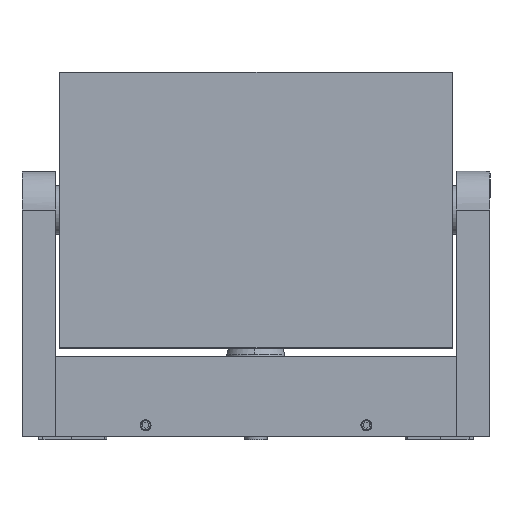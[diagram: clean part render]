
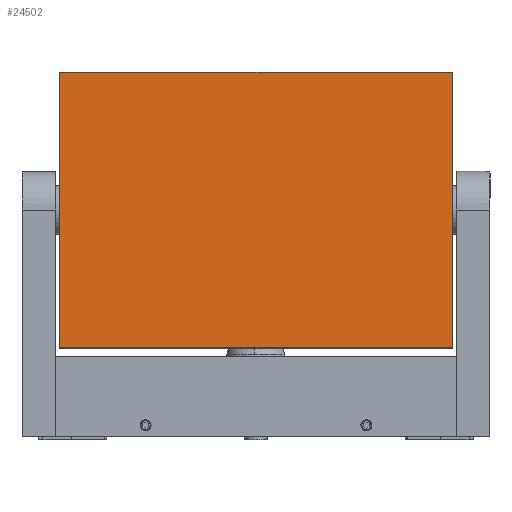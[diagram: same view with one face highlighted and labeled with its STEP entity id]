
A CAD part, top view. The second image highlights one B-rep face of the part: STEP entity #24502.
In plain terms, the highlighted planar face has unit normal (0, 0, 1) as drawn and (0, 0, -1) by its records, which use the part's own axes.
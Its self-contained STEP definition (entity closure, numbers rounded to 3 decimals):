
#24377=CARTESIAN_POINT('Vertex',(-89.,62.5,-15.)) ;
#24384=CARTESIAN_POINT('Vertex',(89.,62.5,-15.)) ;
#24387=CARTESIAN_POINT('Line Origine',(0.,62.5,-15.)) ;
#24410=CARTESIAN_POINT('Vertex',(89.,-62.5,-15.)) ;
#24413=CARTESIAN_POINT('Line Origine',(89.,0.,-15.)) ;
#24455=CARTESIAN_POINT('Vertex',(-89.,-62.5,-15.)) ;
#24458=CARTESIAN_POINT('Line Origine',(0.,-62.5,-15.)) ;
#24472=CARTESIAN_POINT('Line Origine',(-89.,0.,-15.)) ;
#24491=CARTESIAN_POINT('Axis2P3D Location',(0.,0.,-15.)) ;
#24388=DIRECTION('Vector Direction',(-1.,0.,0.)) ;
#24414=DIRECTION('Vector Direction',(0.,1.,0.)) ;
#24459=DIRECTION('Vector Direction',(1.,0.,0.)) ;
#24473=DIRECTION('Vector Direction',(0.,-1.,0.)) ;
#24492=DIRECTION('Axis2P3D Direction',(-0.,0.,1.)) ;
#24493=DIRECTION('Axis2P3D XDirection',(1.,0.,0.)) ;
#24494=AXIS2_PLACEMENT_3D('Plane Axis2P3D',#24491,#24492,#24493) ;
#24497=ORIENTED_EDGE('',*,*,#24417,.F.) ;
#24498=ORIENTED_EDGE('',*,*,#24462,.F.) ;
#24499=ORIENTED_EDGE('',*,*,#24476,.F.) ;
#24500=ORIENTED_EDGE('',*,*,#24391,.F.) ;
#24389=VECTOR('Line Direction',#24388,1.) ;
#24415=VECTOR('Line Direction',#24414,1.) ;
#24460=VECTOR('Line Direction',#24459,1.) ;
#24474=VECTOR('Line Direction',#24473,1.) ;
#24502=ADVANCED_FACE('\X2\62D46A21\X0\3',(#24501),#24495,.F.) ;
#24391=EDGE_CURVE('',#24385,#24378,#24390,.T.) ;
#24417=EDGE_CURVE('',#24411,#24385,#24416,.T.) ;
#24462=EDGE_CURVE('',#24456,#24411,#24461,.T.) ;
#24476=EDGE_CURVE('',#24378,#24456,#24475,.T.) ;
#24496=EDGE_LOOP('',(#24497,#24498,#24499,#24500)) ;
#24501=FACE_OUTER_BOUND('',#24496,.T.) ;
#24390=LINE('Line',#24387,#24389) ;
#24416=LINE('Line',#24413,#24415) ;
#24461=LINE('Line',#24458,#24460) ;
#24475=LINE('Line',#24472,#24474) ;
#24495=PLANE('',#24494) ;
#24378=VERTEX_POINT('',#24377) ;
#24385=VERTEX_POINT('',#24384) ;
#24411=VERTEX_POINT('',#24410) ;
#24456=VERTEX_POINT('',#24455) ;
